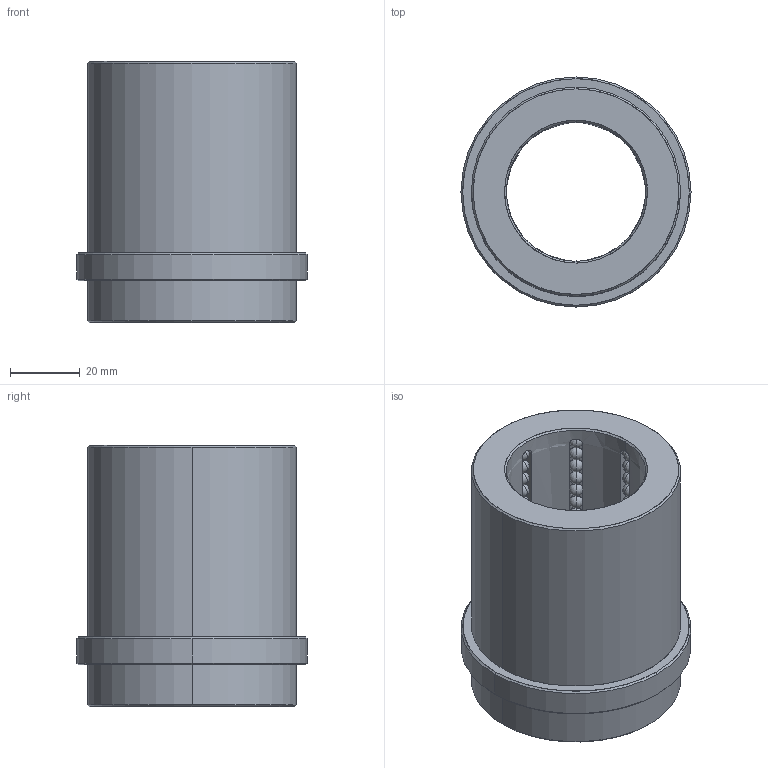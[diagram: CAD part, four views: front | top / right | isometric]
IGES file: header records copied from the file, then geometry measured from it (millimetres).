
Start section: START RECORD GO HERE.
Global section: file name: B8024063.igs; native system: DASSAULT SYSTEMES CATIA V5 R20 - www.3ds.com; preprocessor: CATIA Version 5 Release 20 ; author: Utente; organization: NB04-ASUS; date: 20200419.145757; units: millimetre
Bounding box: 66 x 66 x 75 mm (x, y, z)
Surface area: 38587.5 mm2 (no closed solid volume)
Topology: 0 solids, 0 shells, 588 faces, 2420 edges, 1396 vertices
Faces by surface type: revolution 560, plane 28
